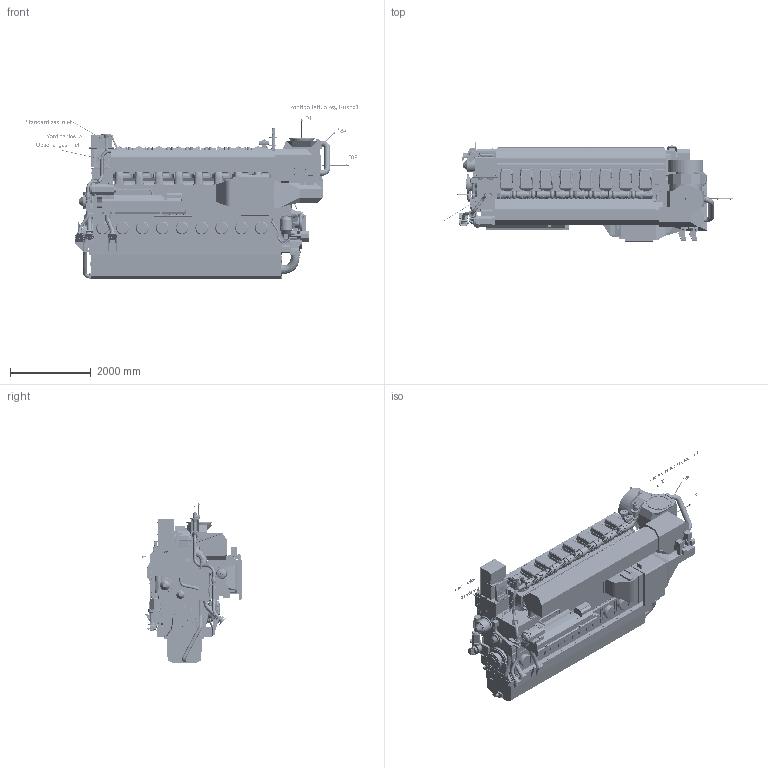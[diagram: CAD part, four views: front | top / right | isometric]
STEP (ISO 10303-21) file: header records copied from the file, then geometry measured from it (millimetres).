
FILE_DESCRIPTION(/* description */ (''),/* implementation_level */ '2;1');
FILE_NAME(/* name */ 'DAAF382032_A.stp',/* time_stamp */ '2021-12-23T09:40:46+02:00',/* author */ (''),/* organization */ (''),/* preprocessor_version */ 'ST-DEVELOPER v16.7',/* originating_system */ 'SIEMENS PLM Software NX 1915',/* authorisation */ '');
FILE_SCHEMA (('AUTOMOTIVE_DESIGN { 1 0 10303 214 3 1 1 1 }'));
Products named in the file (67): PABA331452_-; PABA329679_-; PABA320172_-; PAAF906213_-; PAAF443022_-; PAAF909498_-; PAAF906214_-; PAAF407546_-; PAAF063770_-; PAAF976966_-; PAAF977035_-; PAAF976975_-; PAAF895907_-; PABA066964_-; PAAF975926_-; PAAF975946_-; PAAF975683_-; PABA089633_-; PAAF555086_-; PAAF555085_-; PAAF528361_-; PAAF468817_-; PAAF447172_-; PAAF443398_-; PAAF442682_-; PAAF397145_-; PAAF363075_-; PAAF291916_-; PAAF293701_-; PAAF271372_-; PAAF270351_-; PAAF078702_-; PAAF078621_-; PAAF247482_-; PAAF247479_-; PAAF247485_-; PAAF243367_-; PAAF243503_-; PAAF243662_-; PAAF243671_-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
Assembly tree (93 placements, depth 2):
  PAAF646780_A
    PAAF063632_-
    PAAF074444_-
    PAAF063781_-
    PAAF078046_-
    PAAF074388_-
    PAAF078074_-
    PAAF078236_-
    PAAF078241_-
    PAAF074414_-
    PAAF093819_-
    PAAF087145_-
    PAAF093493_-
    PAAF068478_-
    PAAF074911_-
    PAAF087111_-
    PAAF087114_-
    PAAF087136_-
    PAAF087122_-
    PAAF093585_-
    PAAF087082_-
    PAAF064319_-
    PAAF211477_-
    PAAF238216_-
    PAAF243622_-
    PAAF245519_-
    PAAF243686_-
    PAAF243671_-
    PAAF243662_-
    PAAF243503_-  x8
    PAAF243367_-
    PAAF247485_-
    PAAF247479_-
    PAAF247482_-
    PAAF078621_-
    PAAF078702_-
    PAAF270351_-
    PAAF271372_-
    PAAF293701_-  x8
    PAAF291916_-
    PAAF363075_-
    PAAF397145_-
    PAAF442682_-
    PAAF443398_-
    PAAF447172_-
    PAAF468817_-
    PAAF528361_-
    PAAF555085_-
    PAAF555086_-
    PABA089633_-
    PAAF975683_-
    PAAF975946_-  x7
    PAAF975926_-  x8
    PABA066964_-
    PAAF895907_-
    PAAF976975_-
    PAAF977035_-
    PAAF976966_-
    PAAF063770_-
    PAAF407546_-
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Bounding box: 8202.41 x 2472.63 x 4310.62 mm (x, y, z)
Volume: 16294623968.1 mm3; surface area: 231223811.6 mm2
Topology: 388 solids, 400 shells, 13242 faces, 32799 edges, 21147 vertices
Faces by surface type: plane 7299, cylinder 2968, bspline 1614, extrusion 871, torus 384, cone 96, sphere 8, revolution 2
Full cylindrical faces by diameter (mm): 1 x8, 3 x3, 4.5 x4, 6 x21, 8 x36, 9 x3, 9.539 x2, 10 x10, 11 x3, 11.908 x1, 12 x12, 13 x1, 13.2 x4, 13.5 x8, 14 x20, 14.5 x1, 15 x20, 15.5 x4, 15.6 x4, 15.7 x4, 16 x7, 17 x13, 18 x112, 18.5 x2, 19 x1, 20 x8, 20.05 x2, 20.075 x1, 22 x42, 22.6 x2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
Entity records: 476177 total; most frequent: CARTESIAN_POINT 210537, ORIENTED_EDGE 54764, DIRECTION 49452, EDGE_CURVE 27382, VERTEX_POINT 18184, VECTOR 17256, LINE 16385, AXIS2_PLACEMENT_3D 16097
